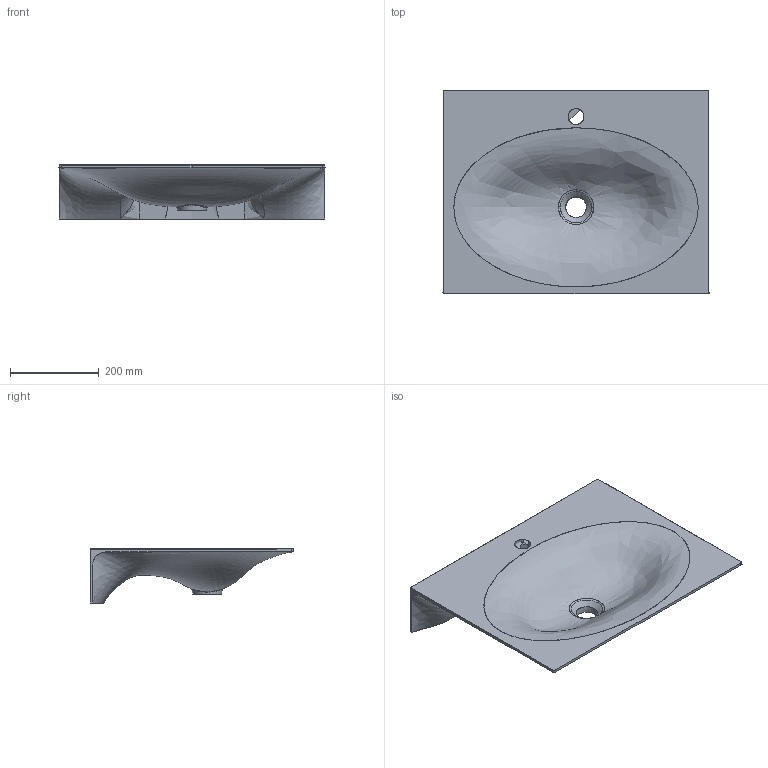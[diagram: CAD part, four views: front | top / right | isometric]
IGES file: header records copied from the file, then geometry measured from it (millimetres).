
Start section: SolidWorks IGES file using analytic representation for surfaces
Global section: file name: C:\Users\Massimiliano\Desktop\Veil 46.igs; native system: Rhinoceros ( Mar 28 2013 ); preprocessor: Trout Lake IGES 012 Mar 28 2013; date: 190828.082542; units: millimetre
Bounding box: 600.65 x 460.35 x 121.95 mm (x, y, z)
Surface area: 732226.4 mm2 (no closed solid volume)
Topology: 0 solids, 0 shells, 38 faces, 896 edges, 884 vertices
Faces by surface type: bspline 38
